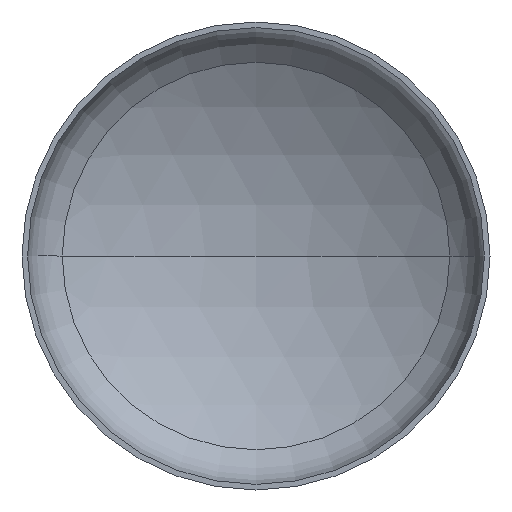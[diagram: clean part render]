
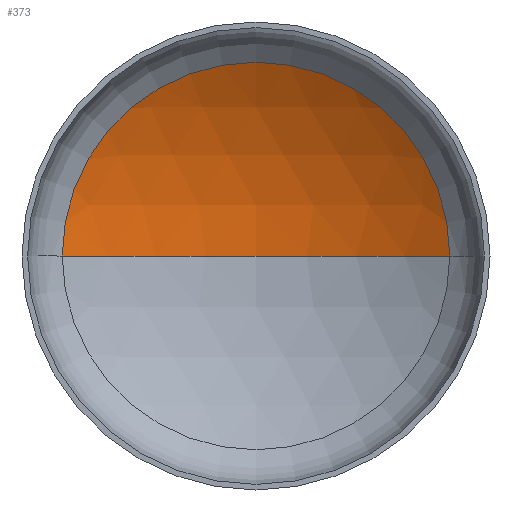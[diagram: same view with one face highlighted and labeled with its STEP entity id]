
A CAD part, front view. The second image highlights one B-rep face of the part: STEP entity #373.
In plain terms, the highlighted spherical face has radius 1200 mm.
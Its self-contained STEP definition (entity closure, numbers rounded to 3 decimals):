
#8 = AXIS2_PLACEMENT_3D ( 'NONE', #293, #246, #96 ) ;
#10 = DIRECTION ( 'NONE',  ( 1., 0., 0. ) ) ;
#41 = ORIENTED_EDGE ( 'NONE', *, *, #128, .F. ) ;
#52 = AXIS2_PLACEMENT_3D ( 'NONE', #221, #288, #10 ) ;
#53 = DIRECTION ( 'NONE',  ( 0., 0., -1. ) ) ;
#56 = AXIS2_PLACEMENT_3D ( 'NONE', #179, #53, #295 ) ;
#59 = AXIS2_PLACEMENT_3D ( 'NONE', #195, #193, #194 ) ;
#96 = DIRECTION ( 'NONE',  ( -1., 0., 0. ) ) ;
#105 = CARTESIAN_POINT ( 'NONE',  ( 621.031, 251.804, 0. ) ) ;
#121 = VERTEX_POINT ( 'NONE', #333 ) ;
#125 = EDGE_CURVE ( 'NONE', #342, #156, #165, .T. ) ;
#126 = EDGE_CURVE ( 'NONE', #121, #342, #242, .T. ) ;
#128 = EDGE_CURVE ( 'NONE', #121, #156, #359, .T. ) ;
#156 = VERTEX_POINT ( 'NONE', #158 ) ;
#158 = CARTESIAN_POINT ( 'NONE',  ( -621.031, 251.804, 0. ) ) ;
#161 = ORIENTED_EDGE ( 'NONE', *, *, #125, .T. ) ;
#165 = CIRCLE ( 'NONE', #59, 621.031 ) ;
#179 = CARTESIAN_POINT ( 'NONE',  ( 0., -774.998, 0. ) ) ;
#193 = DIRECTION ( 'NONE',  ( 0., -1., 0. ) ) ;
#194 = DIRECTION ( 'NONE',  ( 1., 0., 0. ) ) ;
#195 = CARTESIAN_POINT ( 'NONE',  ( 0., 251.804, 0. ) ) ;
#218 = EDGE_LOOP ( 'NONE', ( #41, #270, #161 ) ) ;
#221 = CARTESIAN_POINT ( 'NONE',  ( 0., -774.998, 0. ) ) ;
#242 = CIRCLE ( 'NONE', #56, 1200. ) ;
#246 = DIRECTION ( 'NONE',  ( 0., 0., -1. ) ) ;
#270 = ORIENTED_EDGE ( 'NONE', *, *, #126, .T. ) ;
#288 = DIRECTION ( 'NONE',  ( 0., 0., 1. ) ) ;
#293 = CARTESIAN_POINT ( 'NONE',  ( 0., -774.998, 0. ) ) ;
#295 = DIRECTION ( 'NONE',  ( -1., 0., 0. ) ) ;
#333 = CARTESIAN_POINT ( 'NONE',  ( 0., 425.002, 0. ) ) ;
#342 = VERTEX_POINT ( 'NONE', #105 ) ;
#359 = CIRCLE ( 'NONE', #52, 1200. ) ;
#373 = ADVANCED_FACE ( 'NONE', ( #384 ), #379, .F. ) ;
#379 = SPHERICAL_SURFACE ( 'NONE', #8, 1200. ) ;
#384 = FACE_OUTER_BOUND ( 'NONE', #218, .T. ) ;
